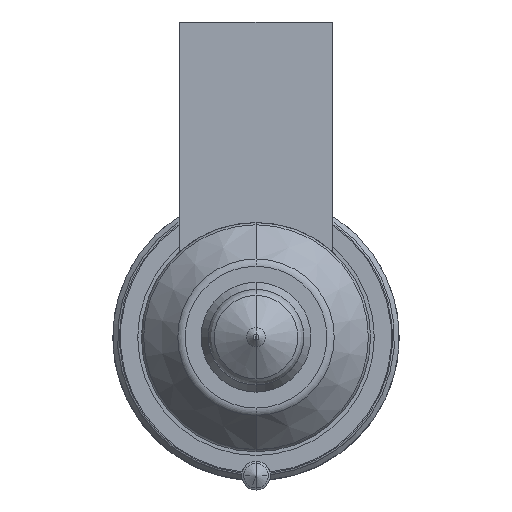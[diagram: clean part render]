
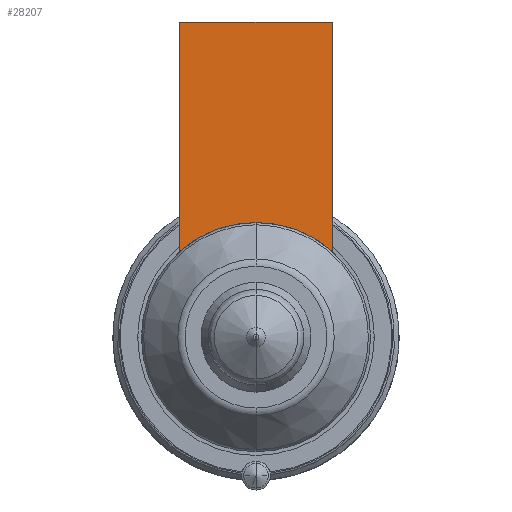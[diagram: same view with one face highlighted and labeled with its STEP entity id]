
A CAD part, front view. The second image highlights one B-rep face of the part: STEP entity #28207.
In plain terms, the highlighted planar face has unit normal (0, -1, 0).
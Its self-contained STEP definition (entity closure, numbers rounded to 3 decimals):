
#27355=DIRECTION('',(0.,0.,-1.));
#27356=VECTOR('',#27355,24.056);
#27357=CARTESIAN_POINT('',(-8.,-56.,33.));
#27358=LINE('',#27357,#27356);
#27395=DIRECTION('',(1.,0.,0.));
#27396=VECTOR('',#27395,16.);
#27397=CARTESIAN_POINT('',(-8.,-56.,33.));
#27398=LINE('',#27397,#27396);
#27402=CARTESIAN_POINT('',(0.,-56.,0.));
#27403=DIRECTION('',(0.,-1.,0.));
#27404=DIRECTION('',(0.667,0.,0.745));
#27405=AXIS2_PLACEMENT_3D('',#27402,#27403,#27404);
#27410=CARTESIAN_POINT('',(0.,-56.,0.));
#27411=DIRECTION('',(0.,-1.,0.));
#27412=DIRECTION('',(0.,0.,1.));
#27413=AXIS2_PLACEMENT_3D('',#27410,#27411,#27412);
#27446=DIRECTION('',(0.,0.,-1.));
#27447=VECTOR('',#27446,24.056);
#27448=CARTESIAN_POINT('',(8.,-56.,33.));
#27449=LINE('',#27448,#27447);
#28051=CARTESIAN_POINT('',(-8.,-56.,33.));
#28052=VERTEX_POINT('',#28051);
#28057=CARTESIAN_POINT('',(8.,-56.,33.));
#28058=VERTEX_POINT('',#28057);
#28061=CARTESIAN_POINT('',(-8.,-56.,8.944));
#28062=VERTEX_POINT('',#28061);
#28065=CARTESIAN_POINT('',(8.,-56.,8.944));
#28066=VERTEX_POINT('',#28065);
#28126=CARTESIAN_POINT('',(0.,-56.,12.));
#28127=VERTEX_POINT('',#28126);
#28192=CARTESIAN_POINT('',(-8.,-56.,33.));
#28193=DIRECTION('',(0.,-1.,0.));
#28194=DIRECTION('',(0.,0.,-1.));
#28195=AXIS2_PLACEMENT_3D('',#28192,#28193,#28194);
#28196=PLANE('',#28195);
#28197=ORIENTED_EDGE('',*,*,#28140,.F.);
#28199=ORIENTED_EDGE('',*,*,#28198,.T.);
#28201=ORIENTED_EDGE('',*,*,#28200,.T.);
#28203=ORIENTED_EDGE('',*,*,#28202,.T.);
#28204=ORIENTED_EDGE('',*,*,#28172,.T.);
#28205=EDGE_LOOP('',(#28197,#28199,#28201,#28203,#28204));
#28206=FACE_OUTER_BOUND('',#28205,.F.);
#28207=ADVANCED_FACE('',(#28206),#28196,.T.);
#27406=CIRCLE('',#27405,12.);
#27414=CIRCLE('',#27413,12.);
#28140=EDGE_CURVE('',#28052,#28062,#27358,.T.);
#28172=EDGE_CURVE('',#28127,#28062,#27414,.T.);
#28198=EDGE_CURVE('',#28052,#28058,#27398,.T.);
#28200=EDGE_CURVE('',#28058,#28066,#27449,.T.);
#28202=EDGE_CURVE('',#28066,#28127,#27406,.T.);
